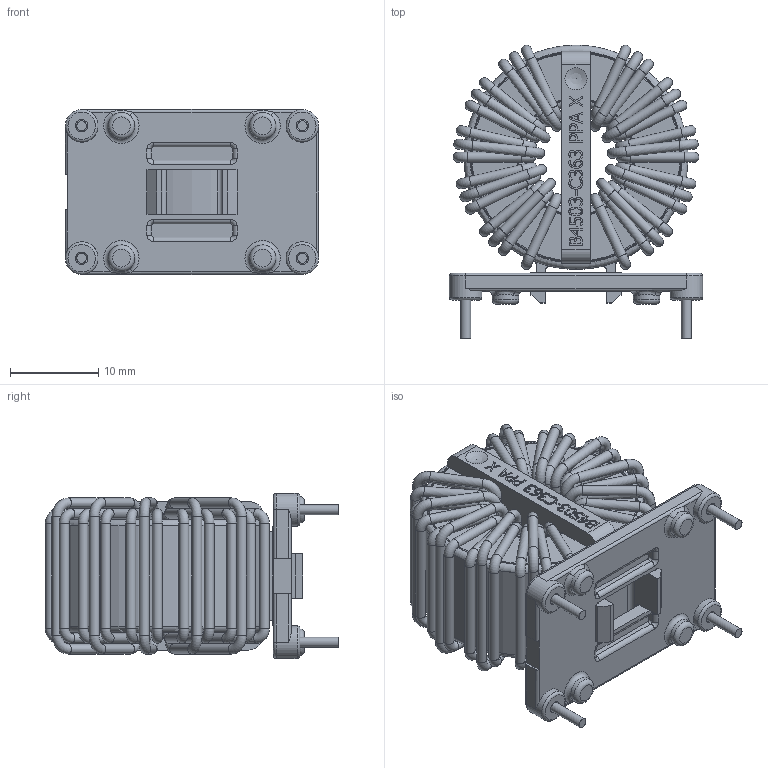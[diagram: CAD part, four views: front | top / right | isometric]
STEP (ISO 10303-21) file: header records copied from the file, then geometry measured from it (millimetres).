
FILE_DESCRIPTION(/* description */ (''),/* implementation_level */ '2;1');
FILE_NAME(/* name */ 'G:\KB-FTKon\CAD\Inventor\Bauelementnummer\6127-X015\6127-X015_Shrinkwrap_1.stp',/* time_stamp */ '2019-04-30T11:05:02+02:00',/* author */ ('de041100'),/* organization */ (''),/* preprocessor_version */ 'ST-DEVELOPER v17.2',/* originating_system */ 'Autodesk Inventor 2019',/* authorisation */ '');
FILE_SCHEMA (('AUTOMOTIVE_DESIGN { 1 0 10303 214 3 1 1 }'));
Length unit declared in the file: millimetre
Products named in the file (1): 6127-X015_Shrinkwrap_1
Bounding box: 28.7 x 33.25 x 18.7 mm (x, y, z)
Volume: 8038.5 mm3; surface area: 9929.3 mm2
Topology: 25 solids, 25 shells, 1448 faces, 4014 edges, 2610 vertices
Faces by surface type: plane 563, bspline 416, cylinder 247, torus 204, sphere 14, cone 4
Full cylindrical faces by diameter (mm): 1.12 x120, 1.4 x4, 3 x4, 3.7 x4, 11.6 x1, 13.2 x1, 23.8 x1, 25.4 x1
Entity records: 52033 total; most frequent: CARTESIAN_POINT 15536, ORIENTED_EDGE 8010, DIRECTION 6181, EDGE_CURVE 4005, VERTEX_POINT 2610, AXIS2_PLACEMENT_3D 2105, LINE 1971, VECTOR 1971
